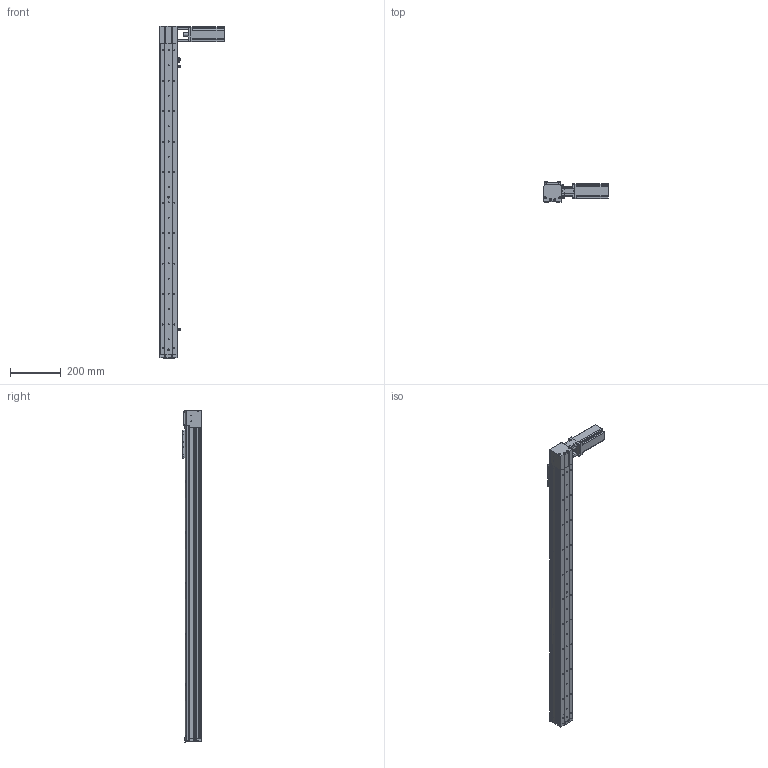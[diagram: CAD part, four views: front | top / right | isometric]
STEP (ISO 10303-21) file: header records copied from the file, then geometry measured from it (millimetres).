
FILE_DESCRIPTION (( 'STEP AP214' ), '1' );
FILE_NAME ('KSD68BS-S1050-MRT-CR.STEP', '2019-11-07T06:48:23', ( '微软用户' ), ( '微软中国' ), 'SwSTEP 2.0', 'SolidWorks 2014', '' );
FILE_SCHEMA (( 'AUTOMOTIVE_DESIGN' ));
Length unit declared in the file: millimetre
Products named in the file (13): 台达ECMA－C20604AS伺服电机（400W); KSD68BS 1050行程底板全封闭; KSD68BS-S1050-MRT-CR; 100遵鎮湛假蚾啣1; KSD68BS 1050行程盖板全封闭; 68遵裔啣揤啣1; 68宽单导轨全封闭丝杆传动安装板1防护罩; KSD68BS 1050行程侧板全封闭; 68宽单导轨全封闭同步带端板; 68单导轨全封闭同步带电机座左; 68单导轨全封闭同步带安装板; 感应片68宽全封闭; U倰嫖萇EEㄜSX672
Assembly tree (16 placements, depth 2):
  KSD68BS-S1050-MRT-CR
    KSD68BS 1050行程底板全封闭
    台达ECMA－C20604AS伺服电机（400W)
    U倰嫖萇EEㄜSX672  x3
    感应片68宽全封闭
    68单导轨全封闭同步带安装板
    68单导轨全封闭同步带电机座左
    68宽单导轨全封闭同步带端板
    KSD68BS 1050行程侧板全封闭  x2
    68宽单导轨全封闭丝杆传动安装板1防护罩
    68遵裔啣揤啣1  x2
    KSD68BS 1050行程盖板全封闭
    100遵鎮湛假蚾啣1
Bounding box: 252.7 x 77 x 1308.1 mm (x, y, z)
Volume: 2551789.5 mm3; surface area: 966062.2 mm2
Topology: 17 solids, 17 shells, 1481 faces, 4230 edges, 2698 vertices
Faces by surface type: cylinder 707, plane 602, cone 172
Entity records: 47354 total; most frequent: CARTESIAN_POINT 8175, DIRECTION 7005, ORIENTED_EDGE 6704, EDGE_CURVE 3352, AXIS2_PLACEMENT_3D 2540, VERTEX_POINT 2196, VECTOR 1925, LINE 1925
